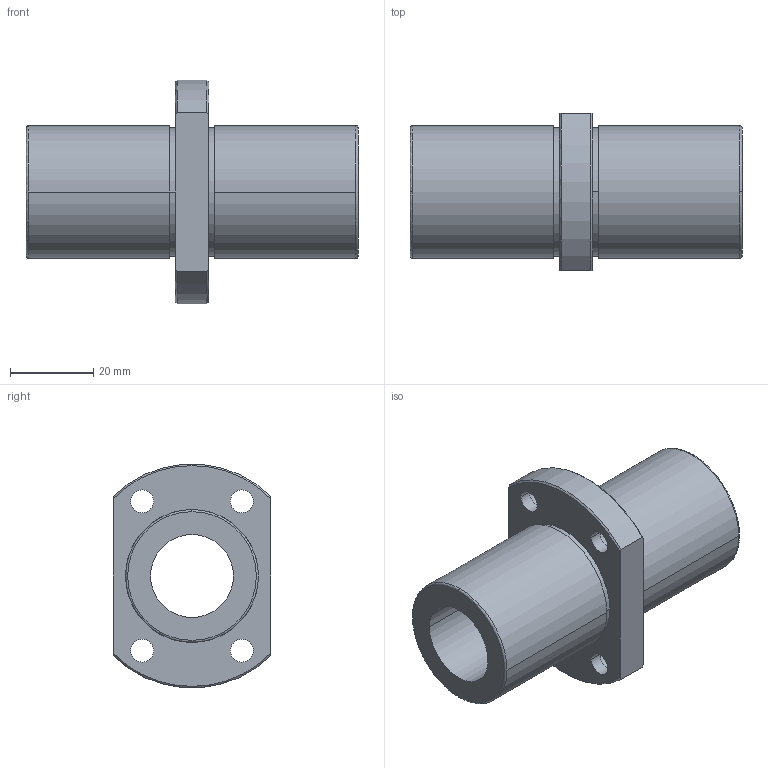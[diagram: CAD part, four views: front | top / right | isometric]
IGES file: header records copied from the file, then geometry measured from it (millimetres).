
Start section: 3D InterOp IGES (Version 21 0 1), Spatial Corp. Copyright (c) 1999-2007.
Global section: file name: NFCO-20VLUU.igs; native system: Spatial Corp.; preprocessor: 3D InterOp GENERIC/IGES 3.0; author: Noname; organization: Noname; date: 20220308.143440; units: millimetre
Bounding box: 80 x 38 x 53.8 mm (x, y, z)
Surface area: 17350.8 mm2 (no closed solid volume)
Topology: 0 solids, 0 shells, 48 faces, 228 edges, 228 vertices
Faces by surface type: revolution 36, extrusion 12
